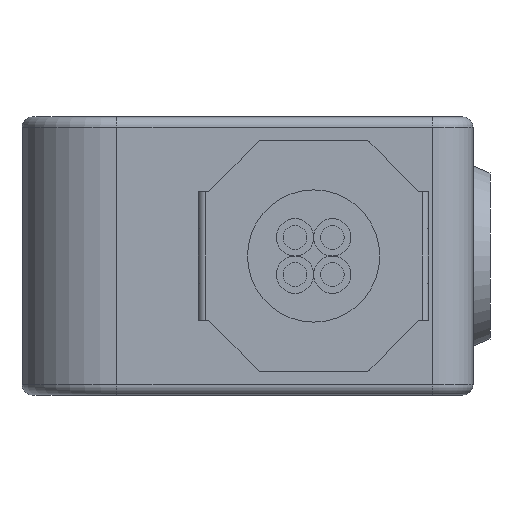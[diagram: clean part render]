
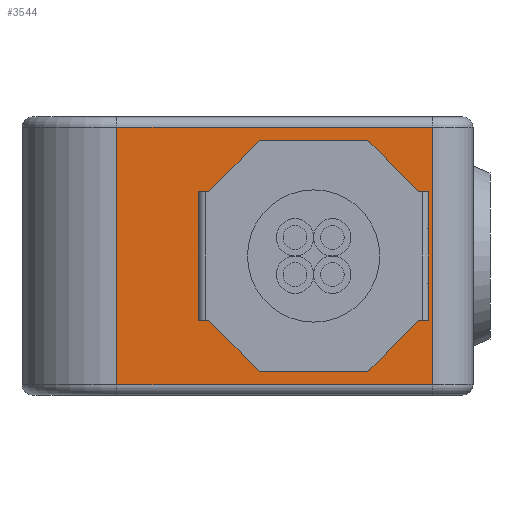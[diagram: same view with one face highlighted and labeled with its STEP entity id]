
A CAD part, left-side view. The second image highlights one B-rep face of the part: STEP entity #3544.
In plain terms, the highlighted planar face has unit normal (-1, 0, 0).
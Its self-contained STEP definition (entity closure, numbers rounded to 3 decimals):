
#532=DIRECTION('',(0.,-1.,0.));
#533=VECTOR('',#532,9.3);
#534=CARTESIAN_POINT('',(-10.8,-2.8,-3.8));
#535=LINE('',#534,#533);
#550=DIRECTION('',(0.,0.,-1.));
#551=VECTOR('',#550,7.6);
#552=CARTESIAN_POINT('',(-10.8,-12.1,3.8));
#553=LINE('',#552,#551);
#554=DIRECTION('',(0.,0.,1.));
#555=VECTOR('',#554,7.6);
#556=CARTESIAN_POINT('',(-10.8,-2.8,-3.8));
#557=LINE('',#556,#555);
#558=DIRECTION('',(0.,0.,1.));
#559=VECTOR('',#558,2.8);
#560=CARTESIAN_POINT('',(-10.8,-12.,-1.4));
#561=LINE('',#560,#559);
#562=DIRECTION('',(0.,-1.,0.));
#563=VECTOR('',#562,0.3);
#564=CARTESIAN_POINT('',(-10.8,-11.7,1.4));
#565=LINE('',#564,#563);
#566=DIRECTION('',(0.,0.,1.));
#567=VECTOR('',#566,0.417);
#568=CARTESIAN_POINT('',(-10.8,-11.7,1.4));
#569=LINE('',#568,#567);
#570=DIRECTION('',(0.,0.707,0.707));
#571=VECTOR('',#570,1.956);
#572=CARTESIAN_POINT('',(-10.8,-11.641,1.959));
#573=LINE('',#572,#571);
#574=DIRECTION('',(0.,0.707,-0.707));
#575=VECTOR('',#574,1.956);
#576=CARTESIAN_POINT('',(-10.8,-6.941,3.341));
#577=LINE('',#576,#575);
#578=DIRECTION('',(0.,0.,-1.));
#579=VECTOR('',#578,0.417);
#580=CARTESIAN_POINT('',(-10.8,-5.5,1.817));
#581=LINE('',#580,#579);
#582=DIRECTION('',(0.,-1.,0.));
#583=VECTOR('',#582,0.3);
#584=CARTESIAN_POINT('',(-10.8,-5.2,1.4));
#585=LINE('',#584,#583);
#586=DIRECTION('',(0.,0.,-1.));
#587=VECTOR('',#586,2.8);
#588=CARTESIAN_POINT('',(-10.8,-5.2,1.4));
#589=LINE('',#588,#587);
#590=DIRECTION('',(0.,1.,0.));
#591=VECTOR('',#590,0.3);
#592=CARTESIAN_POINT('',(-10.8,-5.5,-1.4));
#593=LINE('',#592,#591);
#594=DIRECTION('',(0.,0.,-1.));
#595=VECTOR('',#594,0.417);
#596=CARTESIAN_POINT('',(-10.8,-5.5,-1.4));
#597=LINE('',#596,#595);
#598=DIRECTION('',(0.,-0.707,-0.707));
#599=VECTOR('',#598,1.956);
#600=CARTESIAN_POINT('',(-10.8,-5.559,-1.959));
#601=LINE('',#600,#599);
#602=DIRECTION('',(0.,-0.707,0.707));
#603=VECTOR('',#602,1.956);
#604=CARTESIAN_POINT('',(-10.8,-10.259,-3.341));
#605=LINE('',#604,#603);
#606=DIRECTION('',(0.,0.,1.));
#607=VECTOR('',#606,0.417);
#608=CARTESIAN_POINT('',(-10.8,-11.7,-1.817));
#609=LINE('',#608,#607);
#610=DIRECTION('',(0.,1.,0.));
#611=VECTOR('',#610,0.3);
#612=CARTESIAN_POINT('',(-10.8,-12.,-1.4));
#613=LINE('',#612,#611);
#623=DIRECTION('',(0.,1.,0.));
#624=VECTOR('',#623,9.3);
#625=CARTESIAN_POINT('',(-10.8,-12.1,3.8));
#626=LINE('',#625,#624);
#1347=CARTESIAN_POINT('',(-10.8,-5.7,1.817));
#1348=DIRECTION('',(1.,0.,0.));
#1349=DIRECTION('',(0.,1.,0.));
#1350=AXIS2_PLACEMENT_3D('',#1347,#1348,#1349);
#1996=CARTESIAN_POINT('',(-10.8,-11.5,-1.817));
#1997=DIRECTION('',(1.,0.,0.));
#1998=DIRECTION('',(0.,-1.,0.));
#1999=AXIS2_PLACEMENT_3D('',#1996,#1997,#1998);
#2013=CARTESIAN_POINT('',(-10.8,-10.117,-3.2));
#2014=DIRECTION('',(1.,0.,0.));
#2015=DIRECTION('',(0.,-0.707,-0.707));
#2016=AXIS2_PLACEMENT_3D('',#2013,#2014,#2015);
#2022=DIRECTION('',(0.,1.,0.));
#2023=VECTOR('',#2022,3.034);
#2024=CARTESIAN_POINT('',(-10.8,-10.117,-3.4));
#2025=LINE('',#2024,#2023);
#2030=CARTESIAN_POINT('',(-10.8,-7.083,-3.2));
#2031=DIRECTION('',(1.,0.,0.));
#2032=DIRECTION('',(0.,0.,-1.));
#2033=AXIS2_PLACEMENT_3D('',#2030,#2031,#2032);
#2051=CARTESIAN_POINT('',(-10.8,-5.7,-1.817));
#2052=DIRECTION('',(1.,0.,0.));
#2053=DIRECTION('',(0.,0.707,-0.707));
#2054=AXIS2_PLACEMENT_3D('',#2051,#2052,#2053);
#2060=CARTESIAN_POINT('',(-10.8,-11.5,1.817));
#2061=DIRECTION('',(1.,0.,0.));
#2062=DIRECTION('',(0.,-0.707,0.707));
#2063=AXIS2_PLACEMENT_3D('',#2060,#2061,#2062);
#2077=CARTESIAN_POINT('',(-10.8,-10.117,3.2));
#2078=DIRECTION('',(1.,0.,0.));
#2079=DIRECTION('',(0.,0.,1.));
#2080=AXIS2_PLACEMENT_3D('',#2077,#2078,#2079);
#2082=DIRECTION('',(0.,-1.,0.));
#2083=VECTOR('',#2082,3.034);
#2084=CARTESIAN_POINT('',(-10.8,-7.083,3.4));
#2085=LINE('',#2084,#2083);
#2094=CARTESIAN_POINT('',(-10.8,-7.083,3.2));
#2095=DIRECTION('',(1.,0.,0.));
#2096=DIRECTION('',(0.,0.707,0.707));
#2097=AXIS2_PLACEMENT_3D('',#2094,#2095,#2096);
#2147=CARTESIAN_POINT('',(-10.8,-2.8,3.8));
#2148=VERTEX_POINT('',#2147);
#2152=CARTESIAN_POINT('',(-10.8,-2.8,-3.8));
#2154=VERTEX_POINT('',#2152);
#2271=CARTESIAN_POINT('',(-10.8,-5.5,1.817));
#2272=CARTESIAN_POINT('',(-10.8,-5.559,1.959));
#2273=VERTEX_POINT('',#2271);
#2274=VERTEX_POINT('',#2272);
#2277=CARTESIAN_POINT('',(-10.8,-6.941,-3.341));
#2278=VERTEX_POINT('',#2277);
#2280=CARTESIAN_POINT('',(-10.8,-7.083,-3.4));
#2282=VERTEX_POINT('',#2280);
#2283=CARTESIAN_POINT('',(-10.8,-5.559,-1.959));
#2284=VERTEX_POINT('',#2283);
#2285=CARTESIAN_POINT('',(-10.8,-7.083,3.4));
#2286=VERTEX_POINT('',#2285);
#2287=CARTESIAN_POINT('',(-10.8,-6.941,3.341));
#2288=VERTEX_POINT('',#2287);
#2289=CARTESIAN_POINT('',(-10.8,-5.5,-1.817));
#2290=VERTEX_POINT('',#2289);
#2312=CARTESIAN_POINT('',(-10.8,-12.1,3.8));
#2314=VERTEX_POINT('',#2312);
#2329=CARTESIAN_POINT('',(-10.8,-12.1,-3.8));
#2330=VERTEX_POINT('',#2329);
#2360=CARTESIAN_POINT('',(-10.8,-10.117,-3.4));
#2362=VERTEX_POINT('',#2360);
#2364=CARTESIAN_POINT('',(-10.8,-10.259,-3.341));
#2366=VERTEX_POINT('',#2364);
#2369=CARTESIAN_POINT('',(-10.8,-11.641,-1.959));
#2370=VERTEX_POINT('',#2369);
#2372=CARTESIAN_POINT('',(-10.8,-11.641,1.959));
#2374=VERTEX_POINT('',#2372);
#2377=CARTESIAN_POINT('',(-10.8,-10.259,3.341));
#2378=VERTEX_POINT('',#2377);
#2380=CARTESIAN_POINT('',(-10.8,-10.117,3.4));
#2382=VERTEX_POINT('',#2380);
#2383=CARTESIAN_POINT('',(-10.8,-11.7,1.817));
#2384=VERTEX_POINT('',#2383);
#2385=CARTESIAN_POINT('',(-10.8,-11.7,-1.817));
#2386=VERTEX_POINT('',#2385);
#2583=CARTESIAN_POINT('',(-10.8,-12.,-1.4));
#2584=VERTEX_POINT('',#2583);
#2585=CARTESIAN_POINT('',(-10.8,-12.,1.4));
#2586=VERTEX_POINT('',#2585);
#2587=CARTESIAN_POINT('',(-10.8,-5.2,1.4));
#2588=VERTEX_POINT('',#2587);
#2589=CARTESIAN_POINT('',(-10.8,-5.2,-1.4));
#2590=VERTEX_POINT('',#2589);
#2591=CARTESIAN_POINT('',(-10.8,-11.7,-1.4));
#2592=VERTEX_POINT('',#2591);
#2593=CARTESIAN_POINT('',(-10.8,-11.7,1.4));
#2594=VERTEX_POINT('',#2593);
#2595=CARTESIAN_POINT('',(-10.8,-5.5,1.4));
#2596=VERTEX_POINT('',#2595);
#2597=CARTESIAN_POINT('',(-10.8,-5.5,-1.4));
#2598=VERTEX_POINT('',#2597);
#3481=CARTESIAN_POINT('',(-10.8,0.,-4.1));
#3482=DIRECTION('',(-1.,0.,0.));
#3483=DIRECTION('',(0.,0.,1.));
#3484=AXIS2_PLACEMENT_3D('',#3481,#3482,#3483);
#3485=PLANE('',#3484);
#3487=ORIENTED_EDGE('',*,*,#3486,.F.);
#3489=ORIENTED_EDGE('',*,*,#3488,.T.);
#3490=ORIENTED_EDGE('',*,*,#3472,.F.);
#3491=ORIENTED_EDGE('',*,*,#3328,.T.);
#3492=EDGE_LOOP('',(#3487,#3489,#3490,#3491));
#3493=FACE_OUTER_BOUND('',#3492,.F.);
#3495=ORIENTED_EDGE('',*,*,#3494,.T.);
#3497=ORIENTED_EDGE('',*,*,#3496,.F.);
#3499=ORIENTED_EDGE('',*,*,#3498,.T.);
#3501=ORIENTED_EDGE('',*,*,#3500,.F.);
#3503=ORIENTED_EDGE('',*,*,#3502,.T.);
#3505=ORIENTED_EDGE('',*,*,#3504,.F.);
#3507=ORIENTED_EDGE('',*,*,#3506,.F.);
#3509=ORIENTED_EDGE('',*,*,#3508,.F.);
#3511=ORIENTED_EDGE('',*,*,#3510,.T.);
#3513=ORIENTED_EDGE('',*,*,#3512,.F.);
#3515=ORIENTED_EDGE('',*,*,#3514,.T.);
#3517=ORIENTED_EDGE('',*,*,#3516,.F.);
#3519=ORIENTED_EDGE('',*,*,#3518,.T.);
#3521=ORIENTED_EDGE('',*,*,#3520,.F.);
#3523=ORIENTED_EDGE('',*,*,#3522,.T.);
#3525=ORIENTED_EDGE('',*,*,#3524,.F.);
#3527=ORIENTED_EDGE('',*,*,#3526,.T.);
#3529=ORIENTED_EDGE('',*,*,#3528,.F.);
#3531=ORIENTED_EDGE('',*,*,#3530,.F.);
#3533=ORIENTED_EDGE('',*,*,#3532,.F.);
#3535=ORIENTED_EDGE('',*,*,#3534,.T.);
#3537=ORIENTED_EDGE('',*,*,#3536,.F.);
#3539=ORIENTED_EDGE('',*,*,#3538,.T.);
#3541=ORIENTED_EDGE('',*,*,#3540,.F.);
#3542=EDGE_LOOP('',(#3495,#3497,#3499,#3501,#3503,#3505,#3507,#3509,#3511,#3513,
#3515,#3517,#3519,#3521,#3523,#3525,#3527,#3529,#3531,#3533,#3535,#3537,#3539,
#3541));
#3543=FACE_BOUND('',#3542,.F.);
#1351=CIRCLE('',#1350,0.2);
#2000=CIRCLE('',#1999,0.2);
#2017=CIRCLE('',#2016,0.2);
#2034=CIRCLE('',#2033,0.2);
#2055=CIRCLE('',#2054,0.2);
#2064=CIRCLE('',#2063,0.2);
#2081=CIRCLE('',#2080,0.2);
#2098=CIRCLE('',#2097,0.2);
#3328=EDGE_CURVE('',#2154,#2148,#557,.T.);
#3472=EDGE_CURVE('',#2154,#2330,#535,.T.);
#3486=EDGE_CURVE('',#2314,#2148,#626,.T.);
#3488=EDGE_CURVE('',#2314,#2330,#553,.T.);
#3494=EDGE_CURVE('',#2584,#2586,#561,.T.);
#3496=EDGE_CURVE('',#2594,#2586,#565,.T.);
#3498=EDGE_CURVE('',#2594,#2384,#569,.T.);
#3500=EDGE_CURVE('',#2374,#2384,#2064,.T.);
#3502=EDGE_CURVE('',#2374,#2378,#573,.T.);
#3504=EDGE_CURVE('',#2382,#2378,#2081,.T.);
#3506=EDGE_CURVE('',#2286,#2382,#2085,.T.);
#3508=EDGE_CURVE('',#2288,#2286,#2098,.T.);
#3510=EDGE_CURVE('',#2288,#2274,#577,.T.);
#3512=EDGE_CURVE('',#2273,#2274,#1351,.T.);
#3514=EDGE_CURVE('',#2273,#2596,#581,.T.);
#3516=EDGE_CURVE('',#2588,#2596,#585,.T.);
#3518=EDGE_CURVE('',#2588,#2590,#589,.T.);
#3520=EDGE_CURVE('',#2598,#2590,#593,.T.);
#3522=EDGE_CURVE('',#2598,#2290,#597,.T.);
#3524=EDGE_CURVE('',#2284,#2290,#2055,.T.);
#3526=EDGE_CURVE('',#2284,#2278,#601,.T.);
#3528=EDGE_CURVE('',#2282,#2278,#2034,.T.);
#3530=EDGE_CURVE('',#2362,#2282,#2025,.T.);
#3532=EDGE_CURVE('',#2366,#2362,#2017,.T.);
#3534=EDGE_CURVE('',#2366,#2370,#605,.T.);
#3536=EDGE_CURVE('',#2386,#2370,#2000,.T.);
#3538=EDGE_CURVE('',#2386,#2592,#609,.T.);
#3540=EDGE_CURVE('',#2584,#2592,#613,.T.);
#3544=ADVANCED_FACE('',(#3493,#3543),#3485,.T.);
